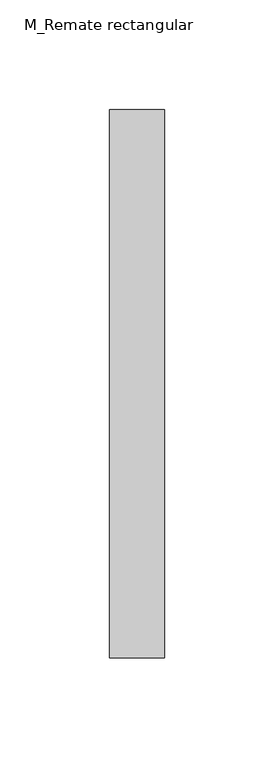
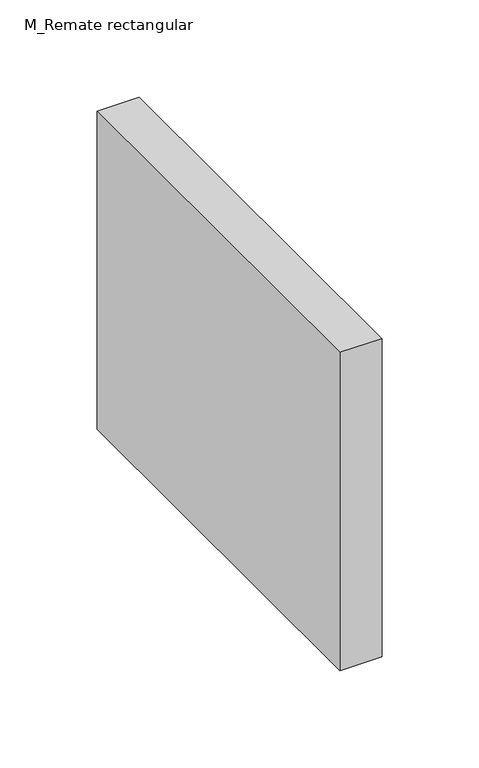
"""IFC4 building model written with IfcOpenShell, lengths in millimetres: duct fitting geometry, M_Remate rectangular : Estándar."""

import ifcopenshell
import ifcopenshell.guid

model = None  # the IFC model being written
_history = None  # IfcOwnerHistory: only IFC2X3 demands one
_inside = {}  # id of a spatial element -> (the spatial element, [elements in it])
_under = {}  # id of a project, library or spatial element -> (it, [spatial elements below it])
_declared = {}  # id of a project -> (the project, [libraries it declares])
_typed = {}  # id of a type object -> (the type object, [elements of that type])
_made_of = {}  # id of a material, layer set ... -> (it, [elements and type objects made of it])


def new_model(schema):
    """Start an empty IFC model of exactly this schema.

    Asked for "IFC4X3", IfcOpenShell would pick the latest addendum, in which some entities
    have other attributes; the version numbers below select the first issue.
    IFC2X3 requires an IfcOwnerHistory on every rooted entity: one is made here for all.
    """
    global model, _history
    if schema == "IFC4X3":
        model = ifcopenshell.file(schema_version=(4, 3, 0, 0))
    else:
        model = ifcopenshell.file(schema=schema)
    _inside.clear()
    _under.clear()
    _declared.clear()
    _typed.clear()
    _made_of.clear()
    _history = None
    if model.schema == "IFC2X3":
        org = make("IfcOrganization", Name="unknown")
        user = make(
            "IfcPersonAndOrganization",
            ThePerson=make("IfcPerson", FamilyName="unknown"),
            TheOrganization=org,
        )
        app = make(
            "IfcApplication",
            ApplicationDeveloper=org,
            Version="unknown",
            ApplicationFullName="unknown",
            ApplicationIdentifier="unknown",
        )
        _history = make(
            "IfcOwnerHistory",
            OwningUser=user,
            OwningApplication=app,
            ChangeAction="ADDED",
            CreationDate=0,
        )
    return model


def make(cls, **values):
    """One entity of the class cls with the attributes given. An attribute that is None is left unset."""
    return model.create_entity(
        cls, **{name: value for name, value in values.items() if value is not None}
    )


def rooted(cls, **values):
    """An entity with a GlobalId (a new one), such as an element, a storey or a relation."""
    return make(cls, GlobalId=ifcopenshell.guid.new(), OwnerHistory=_history, **values)


def si_unit(unit_type, name, prefix=None):
    """IfcSIUnit, for example si_unit("LENGTHUNIT", "METRE", prefix="MILLI")."""
    return make("IfcSIUnit", UnitType=unit_type, Prefix=prefix, Name=name)


def assignment(units):
    """IfcUnitAssignment: the units of a project."""
    return None if units is None else make("IfcUnitAssignment", Units=units)


def point(xyz):
    """IfcCartesianPoint."""
    return None if xyz is None else make("IfcCartesianPoint", Coordinates=xyz)


def direction(xyz):
    """IfcDirection."""
    return None if xyz is None else make("IfcDirection", DirectionRatios=xyz)


def frame(location, z_axis=None, x_axis=None):
    """IfcAxis2Placement3D, a coordinate frame: its origin and axes. An axis left out is left unset."""
    return make(
        "IfcAxis2Placement3D",
        Location=point(location),
        Axis=direction(z_axis),
        RefDirection=direction(x_axis),
    )


def origin():
    """The frame at (0, 0, 0) with its axes left unset."""
    return frame((0.0, 0.0, 0.0))


def place(relative_to, where):
    """IfcLocalPlacement: puts the frame where relative to a parent placement (None: the world)."""
    return make(
        "IfcLocalPlacement", PlacementRelTo=relative_to, RelativePlacement=where
    )


def context(
    kind, dimensions, precision=None, world=None, true_north=None, identifier=None
):
    """IfcGeometricRepresentationContext, for example the 3D "Model" context."""
    return make(
        "IfcGeometricRepresentationContext",
        ContextIdentifier=identifier,
        ContextType=kind,
        CoordinateSpaceDimension=dimensions,
        Precision=precision,
        WorldCoordinateSystem=world,
        TrueNorth=true_north,
    )


def project(units=None, contexts=None):
    """IfcProject with its units and contexts."""
    return rooted(
        "IfcProject",
        Name="project",
        RepresentationContexts=contexts,
        UnitsInContext=assignment(units),
    )


def spatial(cls, under=None, at=None, **own):
    """A site, building, storey or space (cls), placed at a placement, below another one or the project."""
    s = rooted(cls, ObjectPlacement=at, **own)
    if under is not None:
        _under.setdefault(under.id(), (under, []))[1].append(s)
    return s


def polyline(points):
    """IfcPolyline through the points."""
    return make("IfcPolyline", Points=[point(p) for p in points])


def outline(outer, holes=None, kind="AREA"):
    """IfcArbitraryClosedProfileDef: a profile drawn as a closed curve; with holes, ...WithVoids."""
    if holes is None:
        return make("IfcArbitraryClosedProfileDef", ProfileType=kind, OuterCurve=outer)
    return make(
        "IfcArbitraryProfileDefWithVoids",
        ProfileType=kind,
        OuterCurve=outer,
        InnerCurves=holes,
    )


def extrude(swept, where, along, depth):
    """IfcExtrudedAreaSolid: the profile swept, set in the frame where, extruded along a direction by depth."""
    return make(
        "IfcExtrudedAreaSolid",
        SweptArea=swept,
        Position=where,
        ExtrudedDirection=direction(along),
        Depth=depth,
    )


def shape(context_of_items, identifier, shape_type, items):
    """IfcShapeRepresentation: the items that make up one representation, for example the "Body"."""
    return make(
        "IfcShapeRepresentation",
        ContextOfItems=context_of_items,
        RepresentationIdentifier=identifier,
        RepresentationType=shape_type,
        Items=items,
    )


def source(mapping_origin, context_of_items, identifier, shape_type, items):
    """IfcRepresentationMap: a shape defined once, which mapped items show again and again."""
    return make(
        "IfcRepresentationMap",
        MappingOrigin=mapping_origin,
        MappedRepresentation=shape(context_of_items, identifier, shape_type, items),
    )


def transform(
    local_origin,
    x_axis=None,
    y_axis=None,
    z_axis=None,
    scale=None,
    scale2=None,
    scale3=None,
    uniform=True,
):
    """IfcCartesianTransformationOperator3D, or its non-uniform kind. x_axis, y_axis, z_axis: its Axis1, 2, 3."""
    if uniform:
        return make(
            "IfcCartesianTransformationOperator3D",
            Axis1=direction(x_axis),
            Axis2=direction(y_axis),
            LocalOrigin=point(local_origin),
            Scale=scale,
            Axis3=direction(z_axis),
        )
    return make(
        "IfcCartesianTransformationOperator3DnonUniform",
        Axis1=direction(x_axis),
        Axis2=direction(y_axis),
        LocalOrigin=point(local_origin),
        Scale=scale,
        Axis3=direction(z_axis),
        Scale2=scale2,
        Scale3=scale3,
    )


def mapped(mapping_source, mapping_target):
    """IfcMappedItem: shows the shape of a source again, moved by a transform."""
    return make(
        "IfcMappedItem", MappingSource=mapping_source, MappingTarget=mapping_target
    )


def made_of(thing, what):
    """Note that an element or type object is made of a material, layer set ...; save() writes the relation."""
    if what is not None:
        _made_of.setdefault(what.id(), (what, []))[1].append(thing)
    return thing


def element(
    cls,
    number,
    at=None,
    inside=None,
    cuts=None,
    type_object=None,
    material=None,
    context=None,
    identifier="Body",
    shape_type=None,
    held_by="IfcProductDefinitionShape",
    body=None,
    shapes=None,
    **own,
):
    """One element of the class cls, such as IfcWall. Its Tag is "e" and its number.

    at: its placement. inside: the storey or other place that contains it. cuts: it is an
    opening in that element (IfcRelVoidsElement). A single representation is given by context,
    identifier, shape_type and body (its items); several are given by shapes. held_by: the class
    of the entity that holds the representations. save() writes the other relations.
    """
    e = rooted(cls, Tag="e%d" % number, ObjectPlacement=at, **own)
    if body is not None:
        shapes = [shape(context, identifier, shape_type, body)]
    if shapes is not None:
        e.Representation = make(held_by, Representations=shapes)
    if inside is not None:
        _inside.setdefault(inside.id(), (inside, []))[1].append(e)
    if cuts is not None:
        rooted(
            "IfcRelVoidsElement", RelatingBuildingElement=cuts, RelatedOpeningElement=e
        )
    if type_object is not None:
        _typed.setdefault(type_object.id(), (type_object, []))[1].append(e)
    return made_of(e, material)


def aggregate(whole, parts):
    """IfcRelAggregates: a whole, such as a stair, and the parts it consists of."""
    return rooted("IfcRelAggregates", RelatingObject=whole, RelatedObjects=parts)


def save(model, path):
    """Write the relations noted so far, then the file.

    IfcRelAggregates (storeys below a building ...), IfcRelContainedInSpatialStructure (elements
    in a storey), IfcRelDefinesByType, IfcRelAssociatesMaterial and IfcRelDeclares: one each for
    every whole, place, type object, material and project.
    """
    for whole, parts in _under.values():
        aggregate(whole, parts)
    for where, things in _inside.values():
        rooted(
            "IfcRelContainedInSpatialStructure",
            RelatedElements=things,
            RelatingStructure=where,
        )
    for kind, things in _typed.values():
        rooted("IfcRelDefinesByType", RelatedObjects=things, RelatingType=kind)
    for what, things in _made_of.values():
        rooted("IfcRelAssociatesMaterial", RelatedObjects=things, RelatingMaterial=what)
    for by, libraries in _declared.values():
        rooted("IfcRelDeclares", RelatingContext=by, RelatedDefinitions=libraries)
    model.write(path)


def m_remate_rectangular_33c38507(model_context):
    return source(origin(), model_context, "Body", "SweptSolid", [
        extrude(outline(polyline([(0.0, -125.0), (0.0, 125.0), (25.0, 125.0), (25.0, -125.0), (0.0, -125.0)])), frame((0.0, 0.0, -100.0), z_axis=(0.0, 0.0, 1.0), x_axis=(1.0, 0.0, 0.0)), (0.0, 0.0, 1.0), 200.0),
    ])


if __name__ == "__main__":
    model = new_model("IFC4")
    model_context = context("Model", 3, world=origin())
    ifc_project = project(units=[si_unit("LENGTHUNIT", "METRE", prefix="MILLI")], contexts=[model_context])
    site = spatial("IfcSite", under=ifc_project)
    building = spatial("IfcBuilding", under=site)
    placement = place(None, origin())
    m_remate_rectangular_shape = m_remate_rectangular_33c38507(model_context)
    element("IfcDuctFitting", 1, ObjectType="M_Remate rectangular : Estándar", at=placement, inside=building, context=model_context, shape_type="MappedRepresentation", body=[
        mapped(m_remate_rectangular_shape, transform((0.0, 0.0, 0.0), x_axis=(1.0, 0.0, 0.0), y_axis=(0.0, 1.0, 0.0), z_axis=(0.0, 0.0, 1.0))),
    ])
    save(model, "model.ifc")
